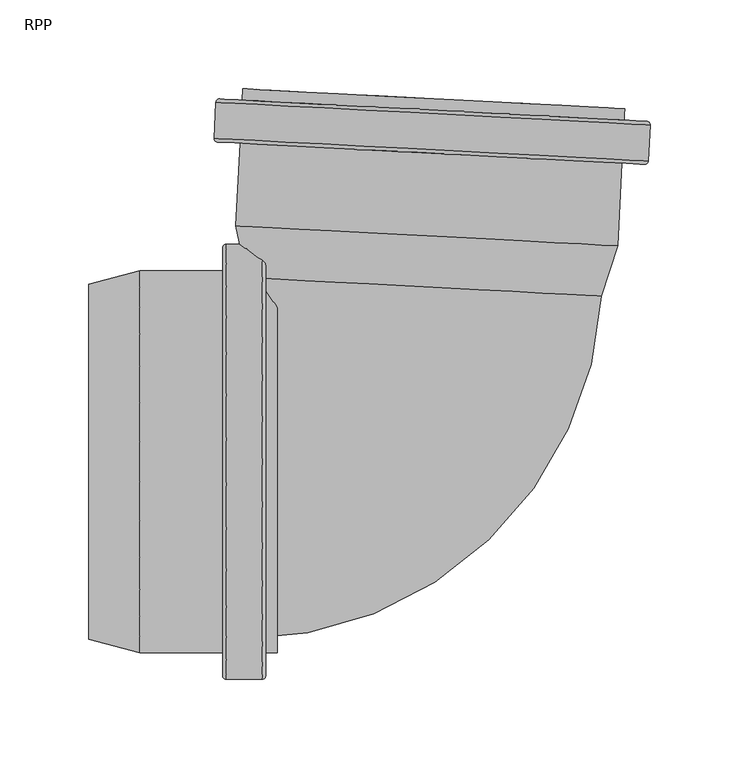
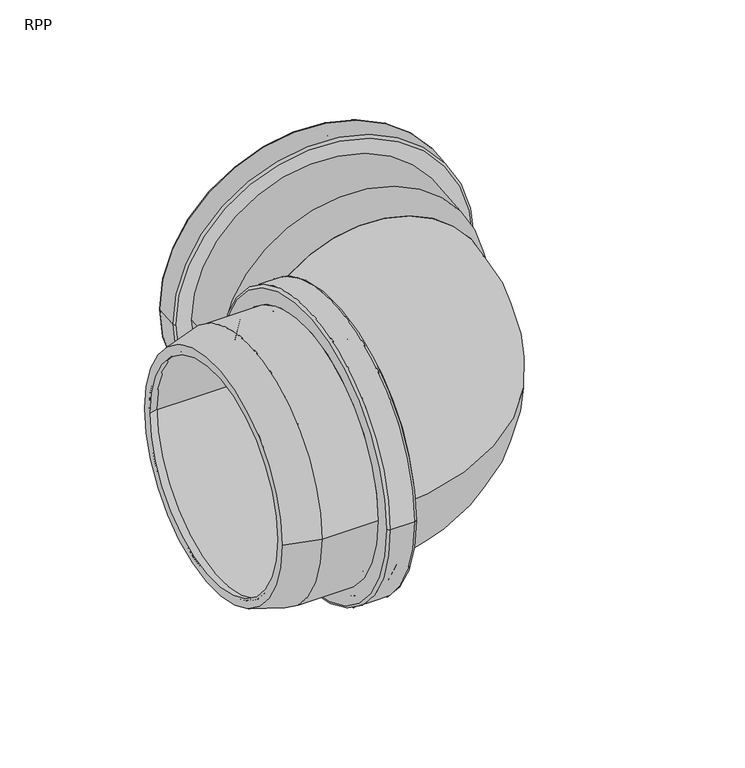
"""IFC4 building model written with IfcOpenShell, lengths in millimetres: pipe fitting geometry, RAUPIANO PLUS Bend : RPP."""

from ifc_helpers import new_model, si_unit, point, frame, origin, place, context, project, spatial, polyline, circle_curve, ellipse_curve, trimmed, source, transform, mapped, element, save
from ifc_brep_helpers import plane_surface, cylinder_surface, revolved_surface, advanced_brep


def rpp_9b603699(model_context):
    return source(origin(), model_context, "Body", "AdvancedBrep", [
        advanced_brep(
        [(-100.8923149, -100.3, 0.0), (-100.8923149, 100.3, 0.0), (-153.9812952, 100.3, 0.0), (-153.9812952, -100.3, 0.0), (-100.3923149, -115.1, 0.0), (-100.3923149, 115.1, 0.0), (-100.8923149, 114.6, 0.0), (-100.8923149, -114.6, 0.0), (-91.8923149, -115.1, 0.0), (-91.8923149, 115.1, 0.0), (-91.3923149, -114.6, 0.0), (-91.3923149, 114.6, 0.0), (-77.5923149, -100.3, 0.0), (-77.5923149, 100.3, 0.0), (-91.3923149, 100.3, 0.0), (-91.3923149, -100.3, 0.0), (-83.9923149, -107.7, 0.0), (-83.9923149, 107.7, 0.0), (-77.5923149, 107.7, 0.0), (-77.5923149, -107.7, 0.0), (-85.9923149, -122.5, 0.0), (-85.9923149, 122.5, 0.0), (-83.9923149, 120.5, 0.0), (-83.9923149, -120.5, 0.0), (-106.2923149, -122.5, 0.0), (-106.2923149, 122.5, 0.0), (-108.2923149, -120.5, 0.0), (-108.2923149, 120.5, 0.0), (-154.9555237, -107.7, 0.0), (-154.9555237, 107.7, 0.0), (-108.2923149, 107.7, 0.0), (-108.2923149, -107.7, 0.0), (-183.6923149, -100.0, 0.0), (-183.6923149, 100.0, 0.0), (-183.6923149, 92.3389563, 0.0), (-183.6923149, -92.3389563, 0.0)],
        [
            (0, 1, circle_curve(frame((-100.8923149, 0.0, 0.0), z_axis=(1.0, 0.0, 0.0), x_axis=(0.0, 1.0, 0.0)), 100.3)),
            (1, 2),
            (2, 3, circle_curve(frame((-153.9812952, 0.0, 0.0), z_axis=(-1.0, 0.0, 0.0), x_axis=(0.0, 1.0, 0.0)), 100.3)),
            (3, 0),
            (4, 5, circle_curve(frame((-100.3923149, 0.0, 0.0), z_axis=(1.0, 0.0, 0.0), x_axis=(0.0, 1.0, 0.0)), 115.1)),
            (5, 6, circle_curve(frame((-100.3923149, 114.6, 0.0), z_axis=(0.0, 0.0, 1.0), x_axis=(0.0, -1.0, 0.0)), 0.5)),
            (6, 7, circle_curve(frame((-100.8923149, 0.0, 0.0), z_axis=(-1.0, 0.0, 0.0), x_axis=(0.0, 1.0, 0.0)), 114.6)),
            (7, 4, circle_curve(frame((-100.3923149, -114.6, 0.0), z_axis=(0.0, 0.0, 1.0), x_axis=(0.0, 1.0, 0.0)), 0.5)),
            (8, 9, circle_curve(frame((-91.8923149, 0.0, 0.0), z_axis=(1.0, 0.0, 0.0), x_axis=(0.0, 1.0, 0.0)), 115.1)),
            (9, 5),
            (4, 8),
            (10, 11, circle_curve(frame((-91.3923149, 0.0, 0.0), z_axis=(1.0, 0.0, 0.0), x_axis=(0.0, 1.0, 0.0)), 114.6)),
            (11, 9, circle_curve(frame((-91.8923149, 114.6, 0.0), z_axis=(0.0, 0.0, 1.0), x_axis=(0.0, -1.0, 0.0)), 0.5)),
            (8, 10, circle_curve(frame((-91.8923149, -114.6, 0.0), z_axis=(0.0, 0.0, 1.0), x_axis=(0.0, 1.0, 0.0)), 0.5)),
            (12, 13, circle_curve(frame((-77.5923149, 0.0, 0.0), z_axis=(1.0, 0.0, 0.0), x_axis=(0.0, 1.0, 0.0)), 100.3)),
            (13, 14),
            (14, 15, circle_curve(frame((-91.3923149, 0.0, 0.0), z_axis=(-1.0, 0.0, 0.0), x_axis=(0.0, 1.0, 0.0)), 100.3)),
            (15, 12),
            (16, 17, circle_curve(frame((-83.9923149, 0.0, 0.0), z_axis=(1.0, 0.0, 0.0), x_axis=(0.0, 1.0, 0.0)), 107.7)),
            (17, 18),
            (18, 19, circle_curve(frame((-77.5923149, 0.0, 0.0), z_axis=(-1.0, 0.0, 0.0), x_axis=(0.0, 1.0, 0.0)), 107.7)),
            (19, 16),
            (20, 21, circle_curve(frame((-85.9923149, 0.0, 0.0), z_axis=(1.0, 0.0, 0.0), x_axis=(0.0, 1.0, 0.0)), 122.5)),
            (21, 22, circle_curve(frame((-85.9923149, 120.5, 0.0), z_axis=(0.0, 0.0, -1.0), x_axis=(0.0, -1.0, 0.0)), 2.0)),
            (22, 23, circle_curve(frame((-83.9923149, 0.0, 0.0), z_axis=(-1.0, 0.0, 0.0), x_axis=(0.0, 1.0, 0.0)), 120.5)),
            (23, 20, circle_curve(frame((-85.9923149, -120.5, 0.0), z_axis=(0.0, 0.0, -1.0), x_axis=(0.0, 1.0, 0.0)), 2.0)),
            (24, 25, circle_curve(frame((-106.2923149, 0.0, 0.0), z_axis=(1.0, 0.0, 0.0), x_axis=(0.0, 1.0, 0.0)), 122.5)),
            (25, 21),
            (20, 24),
            (26, 27, circle_curve(frame((-108.2923149, 0.0, 0.0), z_axis=(1.0, 0.0, 0.0), x_axis=(0.0, 1.0, 0.0)), 120.5)),
            (27, 25, circle_curve(frame((-106.2923149, 120.5, 0.0), z_axis=(0.0, 0.0, -1.0), x_axis=(0.0, -1.0, 0.0)), 2.0)),
            (24, 26, circle_curve(frame((-106.2923149, -120.5, 0.0), z_axis=(0.0, 0.0, -1.0), x_axis=(0.0, 1.0, 0.0)), 2.0)),
            (28, 29, circle_curve(frame((-154.9555237, 0.0, 0.0), z_axis=(1.0, 0.0, 0.0), x_axis=(0.0, 1.0, 0.0)), 107.7)),
            (29, 30),
            (30, 31, circle_curve(frame((-108.2923149, 0.0, 0.0), z_axis=(-1.0, 0.0, 0.0), x_axis=(0.0, 1.0, 0.0)), 107.7)),
            (31, 28),
            (32, 33, circle_curve(frame((-183.6923149, 0.0, 0.0), z_axis=(1.0, 0.0, 0.0), x_axis=(0.0, 1.0, 0.0)), 100.0)),
            (33, 29),
            (28, 32),
            (2, 34),
            (34, 35, circle_curve(frame((-183.6923149, 0.0, 0.0), z_axis=(-1.0, 0.0, 0.0), x_axis=(0.0, 1.0, 0.0)), 92.3389563)),
            (35, 3),
            (1, 0, circle_curve(frame((-100.8923149, 0.0, 0.0), z_axis=(1.0, 0.0, 0.0), x_axis=(0.0, -1.0, 0.0)), 100.3)),
            (3, 2, circle_curve(frame((-153.9812952, 0.0, 0.0), z_axis=(-1.0, 0.0, 0.0), x_axis=(0.0, -1.0, 0.0)), 100.3)),
            (6, 7, circle_curve(frame((-100.8923149, 0.0, 0.0), z_axis=(1.0, 0.0, 0.0), x_axis=(0.0, -1.0, 0.0)), 114.6)),
            (5, 4, circle_curve(frame((-100.3923149, 0.0, 0.0), z_axis=(1.0, 0.0, 0.0), x_axis=(0.0, -1.0, 0.0)), 115.1)),
            (9, 8, circle_curve(frame((-91.8923149, 0.0, 0.0), z_axis=(1.0, 0.0, 0.0), x_axis=(0.0, -1.0, 0.0)), 115.1)),
            (11, 10, circle_curve(frame((-91.3923149, 0.0, 0.0), z_axis=(1.0, 0.0, 0.0), x_axis=(0.0, -1.0, 0.0)), 114.6)),
            (14, 15, circle_curve(frame((-91.3923149, 0.0, 0.0), z_axis=(1.0, 0.0, 0.0), x_axis=(0.0, -1.0, 0.0)), 100.3)),
            (13, 12, circle_curve(frame((-77.5923149, 0.0, 0.0), z_axis=(1.0, 0.0, 0.0), x_axis=(0.0, -1.0, 0.0)), 100.3)),
            (18, 19, circle_curve(frame((-77.5923149, 0.0, 0.0), z_axis=(1.0, 0.0, 0.0), x_axis=(0.0, -1.0, 0.0)), 107.7)),
            (17, 16, circle_curve(frame((-83.9923149, 0.0, 0.0), z_axis=(1.0, 0.0, 0.0), x_axis=(0.0, -1.0, 0.0)), 107.7)),
            (22, 23, circle_curve(frame((-83.9923149, 0.0, 0.0), z_axis=(1.0, 0.0, 0.0), x_axis=(0.0, -1.0, 0.0)), 120.5)),
            (21, 20, circle_curve(frame((-85.9923149, 0.0, 0.0), z_axis=(1.0, 0.0, 0.0), x_axis=(0.0, -1.0, 0.0)), 122.5)),
            (25, 24, circle_curve(frame((-106.2923149, 0.0, 0.0), z_axis=(1.0, 0.0, 0.0), x_axis=(0.0, -1.0, 0.0)), 122.5)),
            (27, 26, circle_curve(frame((-108.2923149, 0.0, 0.0), z_axis=(1.0, 0.0, 0.0), x_axis=(0.0, -1.0, 0.0)), 120.5)),
            (30, 31, circle_curve(frame((-108.2923149, 0.0, 0.0), z_axis=(1.0, 0.0, 0.0), x_axis=(0.0, -1.0, 0.0)), 107.7)),
            (29, 28, circle_curve(frame((-154.9555237, 0.0, 0.0), z_axis=(1.0, 0.0, 0.0), x_axis=(0.0, -1.0, 0.0)), 107.7)),
            (33, 32, circle_curve(frame((-183.6923149, 0.0, 0.0), z_axis=(1.0, 0.0, 0.0), x_axis=(0.0, -1.0, 0.0)), 100.0)),
            (34, 35, circle_curve(frame((-183.6923149, 0.0, 0.0), z_axis=(1.0, 0.0, 0.0), x_axis=(0.0, -1.0, 0.0)), 92.3389563)),
        ],
        [
            revolved_surface(polyline([(-153.9812952, 100.3, 0.0), (-100.8923149, 100.3, 0.0)]), (-183.6923149, 0.0, 0.0), (-1.0, 0.0, 0.0)),
            revolved_surface(trimmed(ellipse_curve(frame((-100.3923149, 114.6, 0.0), z_axis=(0.0, 0.0, -1.0), x_axis=(0.0, -1.0, 0.0)), 0.5, 0.5), [point((-100.8923149, 114.6, 0.0))], [point((-100.3923149, 115.1, 0.0))], True, "CARTESIAN"), (-183.6923149, 0.0, 0.0), (-1.0, 0.0, 0.0)),
            revolved_surface(polyline([(-100.3923149, 115.1, 0.0), (-91.8923149, 115.1, 0.0)]), (-183.6923149, 0.0, 0.0), (-1.0, 0.0, 0.0)),
            revolved_surface(trimmed(ellipse_curve(frame((-91.8923149, 114.6, 0.0), z_axis=(0.0, 0.0, -1.0), x_axis=(0.0, -1.0, 0.0)), 0.5, 0.5), [point((-91.8923149, 115.1, 0.0))], [point((-91.3923149, 114.6, 0.0))], True, "CARTESIAN"), (-183.6923149, 0.0, 0.0), (-1.0, 0.0, 0.0)),
            revolved_surface(polyline([(-91.3923149, 100.3, 0.0), (-77.5923149, 100.3, 0.0)]), (-183.6923149, 0.0, 0.0), (-1.0, 0.0, 0.0)),
            cylinder_surface(frame((-183.6923149, 0.0, 0.0), z_axis=(-1.0, 0.0, 0.0), x_axis=(0.0, 1.0, 0.0)), 107.7),
            revolved_surface(trimmed(ellipse_curve(frame((-85.9923149, 120.5, 0.0), z_axis=(0.0, 0.0, 1.0), x_axis=(0.0, -1.0, 0.0)), 2.0, 2.0), [point((-83.9923149, 120.5, 0.0))], [point((-85.9923149, 122.5, 0.0))], True, "CARTESIAN"), (-183.6923149, 0.0, 0.0), (-1.0, 0.0, 0.0)),
            cylinder_surface(frame((-183.6923149, 0.0, 0.0), z_axis=(-1.0, 0.0, 0.0), x_axis=(0.0, 1.0, 0.0)), 122.5),
            revolved_surface(trimmed(ellipse_curve(frame((-106.2923149, 120.5, 0.0), z_axis=(0.0, 0.0, 1.0), x_axis=(0.0, -1.0, 0.0)), 2.0, 2.0), [point((-106.2923149, 122.5, 0.0))], [point((-108.2923149, 120.5, 0.0))], True, "CARTESIAN"), (-183.6923149, 0.0, 0.0), (-1.0, 0.0, 0.0)),
            revolved_surface(polyline([(-154.9555237, 107.7, 0.0), (-183.6923149, 100.0, 0.0)]), (-183.6923149, 0.0, 0.0), (-1.0, 0.0, 0.0)),
            revolved_surface(polyline([(-183.6923149, 92.3389563, 0.0), (-153.9812952, 100.3, 0.0)]), (-183.6923149, 0.0, 0.0), (-1.0, 0.0, 0.0)),
            revolved_surface(polyline([(-153.9812952, -100.3, 0.0), (-100.8923149, -100.3, 0.0)]), (-183.6923149, 0.0, 0.0), (-1.0, 0.0, 0.0)),
            plane_surface(frame((-100.8923149, 0.0, 0.0), z_axis=(1.0, 0.0, 0.0), x_axis=(0.0, -1.0, 0.0))),
            revolved_surface(trimmed(ellipse_curve(frame((-100.3923149, -114.6, 0.0), z_axis=(0.0, 0.0, 1.0), x_axis=(0.0, 1.0, 0.0)), 0.5, 0.5), [point((-100.8923149, -114.6, 0.0))], [point((-100.3923149, -115.1, 0.0))], True, "CARTESIAN"), (-183.6923149, 0.0, 0.0), (-1.0, 0.0, 0.0)),
            revolved_surface(polyline([(-100.3923149, -115.1, 0.0), (-91.8923149, -115.1, 0.0)]), (-183.6923149, 0.0, 0.0), (-1.0, 0.0, 0.0)),
            revolved_surface(trimmed(ellipse_curve(frame((-91.8923149, -114.6, 0.0), z_axis=(0.0, 0.0, 1.0), x_axis=(0.0, 1.0, 0.0)), 0.5, 0.5), [point((-91.8923149, -115.1, 0.0))], [point((-91.3923149, -114.6, 0.0))], True, "CARTESIAN"), (-183.6923149, 0.0, 0.0), (-1.0, 0.0, 0.0)),
            plane_surface(frame((-91.3923149, 0.0, 0.0), z_axis=(-1.0, 0.0, 0.0), x_axis=(0.0, -1.0, 0.0))),
            revolved_surface(polyline([(-91.3923149, -100.3, 0.0), (-77.5923149, -100.3, 0.0)]), (-183.6923149, 0.0, 0.0), (-1.0, 0.0, 0.0)),
            plane_surface(frame((-77.5923149, 0.0, 0.0), z_axis=(1.0, 0.0, 0.0), x_axis=(0.0, -1.0, 0.0))),
            cylinder_surface(frame((-183.6923149, 0.0, 0.0), z_axis=(-1.0, 0.0, 0.0), x_axis=(0.0, -1.0, 0.0)), 107.7),
            plane_surface(frame((-83.9923149, 0.0, 0.0), z_axis=(1.0, 0.0, 0.0), x_axis=(0.0, -1.0, 0.0))),
            revolved_surface(trimmed(ellipse_curve(frame((-85.9923149, -120.5, 0.0), z_axis=(0.0, 0.0, -1.0), x_axis=(0.0, 1.0, 0.0)), 2.0, 2.0), [point((-83.9923149, -120.5, 0.0))], [point((-85.9923149, -122.5, 0.0))], True, "CARTESIAN"), (-183.6923149, 0.0, 0.0), (-1.0, 0.0, 0.0)),
            cylinder_surface(frame((-183.6923149, 0.0, 0.0), z_axis=(-1.0, 0.0, 0.0), x_axis=(0.0, -1.0, 0.0)), 122.5),
            revolved_surface(trimmed(ellipse_curve(frame((-106.2923149, -120.5, 0.0), z_axis=(0.0, 0.0, -1.0), x_axis=(0.0, 1.0, 0.0)), 2.0, 2.0), [point((-106.2923149, -122.5, 0.0))], [point((-108.2923149, -120.5, 0.0))], True, "CARTESIAN"), (-183.6923149, 0.0, 0.0), (-1.0, 0.0, 0.0)),
            plane_surface(frame((-108.2923149, 0.0, 0.0), z_axis=(-1.0, 0.0, 0.0), x_axis=(0.0, -1.0, 0.0))),
            revolved_surface(polyline([(-154.9555237, -107.7, 0.0), (-183.6923149, -100.0, 0.0)]), (-183.6923149, 0.0, 0.0), (-1.0, 0.0, 0.0)),
            plane_surface(frame((-183.6923149, 0.0, 0.0), z_axis=(-1.0, 0.0, 0.0), x_axis=(0.0, -1.0, 0.0))),
            revolved_surface(polyline([(-183.6923149, -92.3389563, 0.0), (-153.9812952, -100.3, 0.0)]), (-183.6923149, 0.0, 0.0), (-1.0, 0.0, 0.0)),
        ],
        [
            (0, [[1, 2, 3, 4]]),
            (1, [[5, 6, 7, 8]]),
            (2, [[9, 10, -5, 11]]),
            (3, [[12, 13, -9, 14]]),
            (4, [[15, 16, 17, 18]]),
            (5, [[19, 20, 21, 22]]),
            (6, [[23, 24, 25, 26]]),
            (7, [[27, 28, -23, 29]]),
            (8, [[30, 31, -27, 32]]),
            (5, [[33, 34, 35, 36]]),
            (9, [[37, 38, -33, 39]]),
            (10, [[-3, 40, 41, 42]]),
            (11, [[43, -4, 44, -2]]),
            (12, [[45, -7], [-43, -1]]),
            (13, [[46, -8, -45, -6]]),
            (14, [[47, -11, -46, -10]]),
            (15, [[48, -14, -47, -13]]),
            (16, [[-48, -12], [49, -17]]),
            (17, [[50, -18, -49, -16]]),
            (18, [[51, -21], [-50, -15]]),
            (19, [[52, -22, -51, -20]]),
            (20, [[53, -25], [-52, -19]]),
            (21, [[54, -26, -53, -24]]),
            (22, [[55, -29, -54, -28]]),
            (23, [[56, -32, -55, -31]]),
            (24, [[-56, -30], [57, -35]]),
            (19, [[58, -36, -57, -34]]),
            (25, [[59, -39, -58, -38]]),
            (26, [[-59, -37], [60, -41]]),
            (27, [[-44, -42, -60, -40]]),
        ],
    ),
        advanced_brep(
        [(97.3775656, 93.724413, 0.0), (-87.0472523, 103.3897081, 0.0), (-93.442431, 133.4766587, 0.0), (106.8826536, 122.9780659, 0.0), (114.221525, 121.6178865, 0.0), (-100.8832768, 132.8910515, 0.0), (-94.6977968, 103.7906562, 0.0), (105.0281102, 93.3234649, 0.0), (116.6636887, 168.217145, 0.0), (-98.4411131, 179.49031, 0.0), (132.6104976, 189.7120115, 0.0), (-112.0537384, 202.5343207, 0.0), (-113.1161583, 182.2621412, 0.0), (131.5480777, 169.4398319, 0.0), (118.2704025, 198.8750717, 0.0), (-96.8343993, 210.1482367, 0.0), (-97.1693494, 203.7570077, 0.0), (117.9354524, 192.4838427, 0.0), (110.1583078, 185.4812702, 0.0), (-90.1667769, 195.979863, 0.0), (-89.4445407, 209.7609506, 0.0), (110.880544, 199.2623578, 0.0), (124.4670013, 175.7190322, 0.0), (-105.4175176, 187.7667694, 0.0), (-104.972662, 196.2551204, 0.0), (124.9118569, 184.2073833, 0.0), (-90.6639685, 186.4928824, 0.0), (109.6611162, 175.9942896, 0.0), (-111.2235712, 180.1602102, 0.0), (129.4461467, 167.5472447, 0.0), (130.7179105, 191.8139424, 0.0), (-109.9518074, 204.4269079, 0.0), (-104.4471792, 196.7282672, 0.0), (124.4387101, 184.732866, 0.0), (123.9415185, 175.2458854, 0.0), (-104.9443708, 187.2412866, 0.0)],
        [
            (0, 1, circle_curve(frame((5.1651567, 98.5570606, 0.0), z_axis=(-0.05233595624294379, -0.9986295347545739, 0.0), x_axis=(-0.9986295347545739, 0.05233595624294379, 0.0)), 92.3389563)),
            (1, 2),
            (2, 3, circle_curve(frame((6.7201113, 128.2273623, 0.0), z_axis=(0.05233595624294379, 0.9986295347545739, 0.0), x_axis=(-0.9986295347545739, 0.05233595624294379, 0.0)), 100.3)),
            (3, 0),
            (4, 5, circle_curve(frame((6.6691241, 127.254469, 0.0), z_axis=(-0.05233595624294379, -0.9986295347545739, 0.0), x_axis=(-0.9986295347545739, 0.05233595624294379, 0.0)), 107.7)),
            (5, 6),
            (6, 7, circle_curve(frame((5.1651567, 98.5570606, 0.0), z_axis=(0.05233595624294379, 0.9986295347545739, 0.0), x_axis=(-0.9986295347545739, 0.05233595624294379, 0.0)), 100.0)),
            (7, 4),
            (8, 9, circle_curve(frame((9.1112878, 173.8537275, 0.0), z_axis=(-0.05233595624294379, -0.9986295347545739, 0.0), x_axis=(-0.9986295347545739, 0.05233595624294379, 0.0)), 107.7)),
            (9, 5),
            (4, 8),
            (10, 11, circle_curve(frame((10.2783796, 196.1231661, 0.0), z_axis=(-0.05233595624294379, -0.9986295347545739, 0.0), x_axis=(-0.9986295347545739, 0.05233595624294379, 0.0)), 122.5)),
            (11, 12),
            (12, 13, circle_curve(frame((9.2159597, 175.8509865, 0.0), z_axis=(0.05233595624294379, 0.9986295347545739, 0.0), x_axis=(-0.9986295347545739, 0.05233595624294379, 0.0)), 122.5)),
            (13, 10),
            (14, 15, circle_curve(frame((10.7180016, 204.5116542, 0.0), z_axis=(-0.05233595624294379, -0.9986295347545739, 0.0), x_axis=(-0.9986295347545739, 0.05233595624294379, 0.0)), 107.7)),
            (15, 16),
            (16, 17, circle_curve(frame((10.3830515, 198.1204252, 0.0), z_axis=(0.05233595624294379, 0.9986295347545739, 0.0), x_axis=(-0.9986295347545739, 0.05233595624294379, 0.0)), 107.7)),
            (17, 14),
            (18, 19, circle_curve(frame((9.9957654, 190.7305666, 0.0), z_axis=(-0.05233595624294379, -0.9986295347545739, 0.0), x_axis=(-0.9986295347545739, 0.05233595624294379, 0.0)), 100.3)),
            (19, 20),
            (20, 21, circle_curve(frame((10.7180016, 204.5116542, 0.0), z_axis=(0.05233595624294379, 0.9986295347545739, 0.0), x_axis=(-0.9986295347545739, 0.05233595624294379, 0.0)), 100.3)),
            (21, 18),
            (22, 23, circle_curve(frame((9.5247418, 181.7429008, 0.0), z_axis=(-0.05233595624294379, -0.9986295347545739, 0.0), x_axis=(-0.9986295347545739, 0.05233595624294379, 0.0)), 115.1)),
            (23, 24),
            (24, 25, circle_curve(frame((9.9695975, 190.2312518, 0.0), z_axis=(0.05233595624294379, 0.9986295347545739, 0.0), x_axis=(-0.9986295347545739, 0.05233595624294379, 0.0)), 115.1)),
            (25, 22),
            (2, 26),
            (26, 27, circle_curve(frame((9.4985739, 181.243586, 0.0), z_axis=(0.05233595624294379, 0.9986295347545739, 0.0), x_axis=(-0.9986295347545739, 0.05233595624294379, 0.0)), 100.3)),
            (27, 3),
            (1, 0, circle_curve(frame((5.1651567, 98.5570606, 0.0), z_axis=(-0.05233595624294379, -0.9986295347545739, 0.0), x_axis=(0.9986295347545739, -0.05233595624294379, 0.0)), 92.3389563)),
            (3, 2, circle_curve(frame((6.7201113, 128.2273623, 0.0), z_axis=(0.05233595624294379, 0.9986295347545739, 0.0), x_axis=(0.9986295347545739, -0.05233595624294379, 0.0)), 100.3)),
            (6, 7, circle_curve(frame((5.1651567, 98.5570606, 0.0), z_axis=(-0.05233595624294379, -0.9986295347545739, 0.0), x_axis=(0.9986295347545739, -0.05233595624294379, 0.0)), 100.0)),
            (5, 4, circle_curve(frame((6.6691241, 127.254469, 0.0), z_axis=(-0.05233595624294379, -0.9986295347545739, 0.0), x_axis=(0.9986295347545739, -0.05233595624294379, 0.0)), 107.7)),
            (9, 8, circle_curve(frame((9.1112878, 173.8537275, 0.0), z_axis=(-0.05233595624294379, -0.9986295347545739, 0.0), x_axis=(0.9986295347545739, -0.05233595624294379, 0.0)), 107.7)),
            (28, 29, circle_curve(frame((9.1112878, 173.8537275, 0.0), z_axis=(-0.05233595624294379, -0.9986295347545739, 0.0), x_axis=(0.9986295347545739, -0.05233595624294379, 0.0)), 120.5)),
            (29, 28, circle_curve(frame((9.1112878, 173.8537275, 0.0), z_axis=(-0.05233595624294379, -0.9986295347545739, 0.0), x_axis=(-0.9986295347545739, 0.05233595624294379, 0.0)), 120.5)),
            (11, 10, circle_curve(frame((10.2783796, 196.1231661, 0.0), z_axis=(-0.05233595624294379, -0.9986295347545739, 0.0), x_axis=(0.9986295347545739, -0.05233595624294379, 0.0)), 122.5)),
            (13, 12, circle_curve(frame((9.2159597, 175.8509865, 0.0), z_axis=(0.05233595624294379, 0.9986295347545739, 0.0), x_axis=(0.9986295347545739, -0.05233595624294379, 0.0)), 122.5)),
            (30, 31, circle_curve(frame((10.3830515, 198.1204252, 0.0), z_axis=(0.05233595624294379, 0.9986295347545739, 0.0), x_axis=(0.9986295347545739, -0.05233595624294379, 0.0)), 120.5)),
            (31, 30, circle_curve(frame((10.3830515, 198.1204252, 0.0), z_axis=(0.05233595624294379, 0.9986295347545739, 0.0), x_axis=(-0.9986295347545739, 0.05233595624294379, 0.0)), 120.5)),
            (16, 17, circle_curve(frame((10.3830515, 198.1204252, 0.0), z_axis=(-0.05233595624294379, -0.9986295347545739, 0.0), x_axis=(0.9986295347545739, -0.05233595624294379, 0.0)), 107.7)),
            (15, 14, circle_curve(frame((10.7180016, 204.5116542, 0.0), z_axis=(-0.05233595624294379, -0.9986295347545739, 0.0), x_axis=(0.9986295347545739, -0.05233595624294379, 0.0)), 107.7)),
            (20, 21, circle_curve(frame((10.7180016, 204.5116542, 0.0), z_axis=(-0.05233595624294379, -0.9986295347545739, 0.0), x_axis=(0.9986295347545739, -0.05233595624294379, 0.0)), 100.3)),
            (19, 18, circle_curve(frame((9.9957654, 190.7305666, 0.0), z_axis=(-0.05233595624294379, -0.9986295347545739, 0.0), x_axis=(0.9986295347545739, -0.05233595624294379, 0.0)), 100.3)),
            (32, 33, circle_curve(frame((9.9957654, 190.7305666, 0.0), z_axis=(-0.05233595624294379, -0.9986295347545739, 0.0), x_axis=(0.9986295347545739, -0.05233595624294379, 0.0)), 114.6)),
            (33, 32, circle_curve(frame((9.9957654, 190.7305666, 0.0), z_axis=(-0.05233595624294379, -0.9986295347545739, 0.0), x_axis=(-0.9986295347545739, 0.05233595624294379, 0.0)), 114.6)),
            (23, 22, circle_curve(frame((9.5247418, 181.7429008, 0.0), z_axis=(-0.05233595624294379, -0.9986295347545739, 0.0), x_axis=(0.9986295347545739, -0.05233595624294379, 0.0)), 115.1)),
            (25, 24, circle_curve(frame((9.9695975, 190.2312518, 0.0), z_axis=(0.05233595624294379, 0.9986295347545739, 0.0), x_axis=(0.9986295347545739, -0.05233595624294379, 0.0)), 115.1)),
            (34, 35, circle_curve(frame((9.4985739, 181.243586, 0.0), z_axis=(0.05233595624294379, 0.9986295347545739, 0.0), x_axis=(0.9986295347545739, -0.05233595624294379, 0.0)), 114.6)),
            (35, 34, circle_curve(frame((9.4985739, 181.243586, 0.0), z_axis=(0.05233595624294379, 0.9986295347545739, 0.0), x_axis=(-0.9986295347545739, 0.05233595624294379, 0.0)), 114.6)),
            (26, 27, circle_curve(frame((9.4985739, 181.243586, 0.0), z_axis=(-0.05233595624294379, -0.9986295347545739, 0.0), x_axis=(0.9986295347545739, -0.05233595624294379, 0.0)), 100.3)),
            (12, 28, circle_curve(frame((-111.1188992, 182.1574693, 0.0), z_axis=(0.0, 0.0, 1.0), x_axis=(0.9986295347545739, -0.05233595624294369, 0.0)), 2.0)),
            (29, 13, circle_curve(frame((129.5508186, 169.5445038, 0.0), z_axis=(0.0, 0.0, 1.0), x_axis=(-0.9986295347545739, 0.0523359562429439, 0.0)), 2.0)),
            (31, 11, circle_curve(frame((-110.0564793, 202.4296488, 0.0), z_axis=(0.0, 0.0, 1.0), x_axis=(0.9986295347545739, -0.05233595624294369, 0.0)), 2.0)),
            (10, 30, circle_curve(frame((130.6132385, 189.8166834, 0.0), z_axis=(0.0, 0.0, 1.0), x_axis=(-0.9986295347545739, 0.0523359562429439, 0.0)), 2.0)),
            (24, 32, circle_curve(frame((-104.4733472, 196.2289524, 0.0), z_axis=(0.0, 0.0, -1.0), x_axis=(0.9986295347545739, -0.05233595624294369, 0.0)), 0.5)),
            (33, 25, circle_curve(frame((124.4125421, 184.2335513, 0.0), z_axis=(0.0, 0.0, -1.0), x_axis=(-0.9986295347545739, 0.0523359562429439, 0.0)), 0.5)),
            (35, 23, circle_curve(frame((-104.9182029, 187.7406014, 0.0), z_axis=(0.0, 0.0, -1.0), x_axis=(0.9986295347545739, -0.05233595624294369, 0.0)), 0.5)),
            (22, 34, circle_curve(frame((123.9676865, 175.7452002, 0.0), z_axis=(0.0, 0.0, -1.0), x_axis=(-0.9986295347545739, 0.0523359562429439, 0.0)), 0.5)),
        ],
        [
            revolved_surface(polyline([(-93.442431, 133.4766587, 0.0), (-87.0472523, 103.3897081, 0.0)]), (5.1651567, 98.5570606, 0.0), (0.05233595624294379, 0.9986295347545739, 0.0)),
            revolved_surface(polyline([(-94.6977968, 103.7906562, 0.0), (-100.8832768, 132.8910515, 0.0)]), (5.1651567, 98.5570606, 0.0), (0.05233595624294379, 0.9986295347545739, 0.0)),
            cylinder_surface(frame((5.1651567, 98.5570606, 0.0), z_axis=(0.05233595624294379, 0.9986295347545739, 0.0), x_axis=(-0.9986295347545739, 0.05233595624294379, 0.0)), 107.7),
            cylinder_surface(frame((5.1651567, 98.5570606, 0.0), z_axis=(0.05233595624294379, 0.9986295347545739, 0.0), x_axis=(-0.9986295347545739, 0.05233595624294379, 0.0)), 122.5),
            revolved_surface(polyline([(-89.44454067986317, 209.7609506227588, 0.0), (-90.16677687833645, 195.9798629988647, 0.0)]), (5.1651567, 98.5570606, 0.0), (0.05233595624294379, 0.9986295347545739, 0.0)),
            revolved_surface(polyline([(-104.97266196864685, 196.25512042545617, 0.0), (-105.41751759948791, 187.76676932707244, 0.0)]), (5.1651567, 98.5570606, 0.0), (0.05233595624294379, 0.9986295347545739, 0.0)),
            revolved_surface(polyline([(-90.66396846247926, 186.49288242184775, 0.0), (-93.44243101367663, 133.47665870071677, 0.0)]), (5.1651567, 98.5570606, 0.0), (0.05233595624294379, 0.9986295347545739, 0.0)),
            revolved_surface(polyline([(106.8826536, 122.9780659, 0.0), (97.3775656, 93.724413, 0.0)]), (5.1651567, 98.5570606, 0.0), (0.05233595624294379, 0.9986295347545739, 0.0)),
            plane_surface(frame((5.1651567, 98.5570606, 0.0), z_axis=(-0.05233595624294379, -0.9986295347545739, 0.0), x_axis=(0.9986295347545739, -0.05233595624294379, 0.0))),
            revolved_surface(polyline([(105.0281102, 93.3234649, 0.0), (114.221525, 121.6178865, 0.0)]), (5.1651567, 98.5570606, 0.0), (0.05233595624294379, 0.9986295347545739, 0.0)),
            cylinder_surface(frame((5.1651567, 98.5570606, 0.0), z_axis=(0.05233595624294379, 0.9986295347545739, 0.0), x_axis=(0.9986295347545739, -0.05233595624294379, 0.0)), 107.7),
            plane_surface(frame((9.1112878, 173.8537275, 0.0), z_axis=(-0.05233595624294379, -0.9986295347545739, 0.0), x_axis=(0.9986295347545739, -0.05233595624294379, 0.0))),
            cylinder_surface(frame((5.1651567, 98.5570606, 0.0), z_axis=(0.05233595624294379, 0.9986295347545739, 0.0), x_axis=(0.9986295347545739, -0.05233595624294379, 0.0)), 122.5),
            plane_surface(frame((10.3830515, 198.1204252, 0.0), z_axis=(0.05233595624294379, 0.9986295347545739, 0.0), x_axis=(0.9986295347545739, -0.05233595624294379, 0.0))),
            plane_surface(frame((10.7180016, 204.5116542, 0.0), z_axis=(0.05233595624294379, 0.9986295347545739, 0.0), x_axis=(0.9986295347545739, -0.05233595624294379, 0.0))),
            revolved_surface(polyline([(110.88054399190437, 199.26235780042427, 0.0), (110.15830779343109, 185.48127017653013, 0.0)]), (5.1651567, 98.5570606, 0.0), (0.05233595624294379, 0.9986295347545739, 0.0)),
            plane_surface(frame((9.9957654, 190.7305666, 0.0), z_axis=(-0.05233595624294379, -0.9986295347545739, 0.0), x_axis=(0.9986295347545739, -0.05233595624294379, 0.0))),
            revolved_surface(polyline([(124.91185693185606, 184.2073832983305, 0.0), (124.467001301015, 175.7190321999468, 0.0)]), (5.1651567, 98.5570606, 0.0), (0.05233595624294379, 0.9986295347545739, 0.0)),
            plane_surface(frame((9.4985739, 181.243586, 0.0), z_axis=(0.05233595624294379, 0.9986295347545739, 0.0), x_axis=(0.9986295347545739, -0.05233595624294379, 0.0))),
            revolved_surface(polyline([(109.66111620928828, 175.99428959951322, 0.0), (106.88265365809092, 122.97806587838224, 0.0)]), (5.1651567, 98.5570606, 0.0), (0.05233595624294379, 0.9986295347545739, 0.0)),
            revolved_surface(trimmed(ellipse_curve(frame((-111.1188992, 182.1574693, 0.0), z_axis=(0.0, 0.0, -1.0), x_axis=(0.9986295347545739, -0.05233595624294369, 0.0)), 2.0, 2.0), [point((-111.2235712, 180.1602102, 0.0))], [point((-113.1161583, 182.2621412, 0.0))], True, "CARTESIAN"), (5.1651567, 98.5570606, 0.0), (0.05233595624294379, 0.9986295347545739, 0.0)),
            revolved_surface(trimmed(ellipse_curve(frame((-110.0564793, 202.4296488, 0.0), z_axis=(0.0, 0.0, -1.0), x_axis=(0.9986295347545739, -0.05233595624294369, 0.0)), 2.0, 2.0), [point((-112.0537384, 202.5343207, 0.0))], [point((-109.9518074, 204.4269079, 0.0))], True, "CARTESIAN"), (5.1651567, 98.5570606, 0.0), (0.05233595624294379, 0.9986295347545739, 0.0)),
            revolved_surface(trimmed(ellipse_curve(frame((-104.4733472, 196.2289524, 0.0), z_axis=(0.0, 0.0, 1.0), x_axis=(0.9986295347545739, -0.05233595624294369, 0.0)), 0.5, 0.5), [point((-104.4471792, 196.7282672, 0.0))], [point((-104.972662, 196.2551204, 0.0))], True, "CARTESIAN"), (5.1651567, 98.5570606, 0.0), (0.05233595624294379, 0.9986295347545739, 0.0)),
            revolved_surface(trimmed(ellipse_curve(frame((-104.9182029, 187.7406014, 0.0), z_axis=(0.0, 0.0, 1.0), x_axis=(0.9986295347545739, -0.05233595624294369, 0.0)), 0.5, 0.5), [point((-105.4175176, 187.7667694, 0.0))], [point((-104.9443708, 187.2412866, 0.0))], True, "CARTESIAN"), (5.1651567, 98.5570606, 0.0), (0.05233595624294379, 0.9986295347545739, 0.0)),
            revolved_surface(trimmed(ellipse_curve(frame((129.5508186, 169.5445038, 0.0), z_axis=(0.0, 0.0, 1.0), x_axis=(-0.9986295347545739, 0.052335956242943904, 0.0)), 2.0, 2.0), [point((129.4461467, 167.5472447, 0.0))], [point((131.5480777, 169.4398319, 0.0))], True, "CARTESIAN"), (5.1651567, 98.5570606, 0.0), (0.05233595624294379, 0.9986295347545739, 0.0)),
            revolved_surface(trimmed(ellipse_curve(frame((130.6132385, 189.8166834, 0.0), z_axis=(0.0, 0.0, 1.0), x_axis=(-0.9986295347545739, 0.052335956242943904, 0.0)), 2.0, 2.0), [point((132.6104976, 189.7120115, 0.0))], [point((130.7179105, 191.8139424, 0.0))], True, "CARTESIAN"), (5.1651567, 98.5570606, 0.0), (0.05233595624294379, 0.9986295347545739, 0.0)),
            revolved_surface(trimmed(ellipse_curve(frame((124.4125421, 184.2335513, 0.0), z_axis=(0.0, 0.0, -1.0), x_axis=(-0.9986295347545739, 0.052335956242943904, 0.0)), 0.5, 0.5), [point((124.4387101, 184.732866, 0.0))], [point((124.9118569, 184.2073833, 0.0))], True, "CARTESIAN"), (5.1651567, 98.5570606, 0.0), (0.05233595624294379, 0.9986295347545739, 0.0)),
            revolved_surface(trimmed(ellipse_curve(frame((123.9676865, 175.7452002, 0.0), z_axis=(0.0, 0.0, -1.0), x_axis=(-0.9986295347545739, 0.052335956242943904, 0.0)), 0.5, 0.5), [point((124.4670013, 175.7190322, 0.0))], [point((123.9415185, 175.2458854, 0.0))], True, "CARTESIAN"), (5.1651567, 98.5570606, 0.0), (0.05233595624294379, 0.9986295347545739, 0.0)),
        ],
        [
            (0, [[1, 2, 3, 4]]),
            (1, [[5, 6, 7, 8]]),
            (2, [[9, 10, -5, 11]]),
            (3, [[12, 13, 14, 15]]),
            (2, [[16, 17, 18, 19]]),
            (4, [[20, 21, 22, 23]]),
            (5, [[24, 25, 26, 27]]),
            (6, [[-3, 28, 29, 30]]),
            (7, [[31, -4, 32, -2]]),
            (8, [[33, -7], [-31, -1]]),
            (9, [[34, -8, -33, -6]]),
            (10, [[35, -11, -34, -10]]),
            (11, [[36, 37], [-35, -9]]),
            (12, [[38, -15, 39, -13]]),
            (13, [[40, 41], [42, -18]]),
            (10, [[43, -19, -42, -17]]),
            (14, [[-43, -16], [44, -22]]),
            (15, [[45, -23, -44, -21]]),
            (16, [[46, 47], [-45, -20]]),
            (17, [[48, -27, 49, -25]]),
            (18, [[50, 51], [52, -29]]),
            (19, [[-32, -30, -52, -28]]),
            (20, [[-14, 53, -37, 54]]),
            (21, [[-41, 55, -12, 56]]),
            (22, [[-26, 57, -47, 58]]),
            (23, [[-51, 59, -24, 60]]),
            (24, [[-39, -54, -36, -53]]),
            (25, [[-40, -56, -38, -55]]),
            (26, [[-49, -58, -46, -57]]),
            (27, [[-50, -60, -48, -59]]),
        ],
    ),
        advanced_brep(
        [(-98.6923149, 93.8, 0.0), (-98.6923149, -93.8, 0.0), (-183.6923149, -93.8, 0.0), (-183.6923149, 93.8, 0.0), (-163.5392406, 100.0, 0.0), (-163.5392406, -100.0, 0.0), (-98.6923149, -100.0, 0.0), (-98.6923149, 100.0, 0.0), (-183.6923149, 94.6, 0.0), (-183.6923149, -94.6, 0.0)],
        [
            (0, 1, circle_curve(frame((-98.6923149, 0.0, 0.0), z_axis=(1.0, 0.0, 0.0), x_axis=(0.0, -1.0, 0.0)), 93.8)),
            (1, 2),
            (2, 3, circle_curve(frame((-183.6923149, 0.0, 0.0), z_axis=(-1.0, 0.0, 0.0), x_axis=(0.0, -1.0, 0.0)), 93.8)),
            (3, 0),
            (4, 5, circle_curve(frame((-163.5392406, 0.0, 0.0), z_axis=(1.0, 0.0, 0.0), x_axis=(0.0, -1.0, 0.0)), 100.0)),
            (5, 6),
            (6, 7, circle_curve(frame((-98.6923149, 0.0, 0.0), z_axis=(-1.0, 0.0, 0.0), x_axis=(0.0, -1.0, 0.0)), 100.0)),
            (7, 4),
            (8, 9, circle_curve(frame((-183.6923149, 0.0, 0.0), z_axis=(1.0, 0.0, 0.0), x_axis=(0.0, -1.0, 0.0)), 94.6)),
            (9, 5),
            (4, 8),
            (1, 0, circle_curve(frame((-98.6923149, 0.0, 0.0), z_axis=(1.0, 0.0, 0.0), x_axis=(0.0, 1.0, 0.0)), 93.8)),
            (3, 2, circle_curve(frame((-183.6923149, 0.0, 0.0), z_axis=(-1.0, 0.0, 0.0), x_axis=(0.0, 1.0, 0.0)), 93.8)),
            (6, 7, circle_curve(frame((-98.6923149, 0.0, 0.0), z_axis=(1.0, 0.0, 0.0), x_axis=(0.0, 1.0, 0.0)), 100.0)),
            (5, 4, circle_curve(frame((-163.5392406, 0.0, 0.0), z_axis=(1.0, 0.0, 0.0), x_axis=(0.0, 1.0, 0.0)), 100.0)),
            (9, 8, circle_curve(frame((-183.6923149, 0.0, 0.0), z_axis=(1.0, 0.0, 0.0), x_axis=(0.0, 1.0, 0.0)), 94.6)),
        ],
        [
            revolved_surface(polyline([(-183.6923149, -93.8, 0.0), (-98.6923149, -93.8, 0.0)]), (-98.6923149, 0.0, 0.0), (-1.0, 0.0, 0.0)),
            cylinder_surface(frame((-98.6923149, 0.0, 0.0), z_axis=(-1.0, 0.0, 0.0), x_axis=(0.0, -1.0, 0.0)), 100.0),
            revolved_surface(polyline([(-163.5392406, -100.0, 0.0), (-183.6923149, -94.6, 0.0)]), (-98.6923149, 0.0, 0.0), (-1.0, 0.0, 0.0)),
            revolved_surface(polyline([(-183.6923149, 93.8, 0.0), (-98.6923149, 93.8, 0.0)]), (-98.6923149, 0.0, 0.0), (-1.0, 0.0, 0.0)),
            plane_surface(frame((-98.6923149, 0.0, 0.0), z_axis=(1.0, 0.0, 0.0), x_axis=(0.0, 1.0, 0.0))),
            cylinder_surface(frame((-98.6923149, 0.0, 0.0), z_axis=(-1.0, 0.0, 0.0), x_axis=(0.0, 1.0, 0.0)), 100.0),
            revolved_surface(polyline([(-163.5392406, 100.0, 0.0), (-183.6923149, 94.6, 0.0)]), (-98.6923149, 0.0, 0.0), (-1.0, 0.0, 0.0)),
            plane_surface(frame((-183.6923149, 0.0, 0.0), z_axis=(-1.0, 0.0, 0.0), x_axis=(0.0, 1.0, 0.0))),
        ],
        [
            (0, [[1, 2, 3, 4]]),
            (1, [[5, 6, 7, 8]]),
            (2, [[9, 10, -5, 11]]),
            (3, [[12, -4, 13, -2]]),
            (4, [[14, -7], [-12, -1]]),
            (5, [[15, -8, -14, -6]]),
            (6, [[16, -11, -15, -10]]),
            (7, [[-16, -9], [-13, -3]]),
        ],
    ),
        advanced_brep(
        [(-98.6923149, -100.0, 0.0), (-98.6923149, 100.0, 0.0), (-98.6923149, -93.8, 0.0), (-98.6923149, 93.8, 0.0), (105.0281102, 93.3234649, 0.0), (-94.6977968, 103.7906562, 0.0), (98.836607, 93.6479479, 0.0), (-88.5062937, 103.4661732, 0.0)],
        [
            (0, 1, circle_curve(frame((-98.6923149, 0.0, 0.0), z_axis=(-1.0, 0.0, 0.0), x_axis=(0.0, 1.0, 0.0)), 100.0)),
            (1, 0, circle_curve(frame((-98.6923149, 0.0, 0.0), z_axis=(-1.0, 0.0, 0.0), x_axis=(0.0, 1.0, 0.0)), 100.0)),
            (2, 3, circle_curve(frame((-98.6923149, 0.0, 0.0), z_axis=(1.0, 0.0, 0.0), x_axis=(0.0, 1.0, 0.0)), 93.8)),
            (3, 2, circle_curve(frame((-98.6923149, 0.0, 0.0), z_axis=(1.0, 0.0, 0.0), x_axis=(0.0, 1.0, 0.0)), 93.8)),
            (4, 5, circle_curve(frame((5.1651567, 98.5570606, 0.0), z_axis=(0.05233595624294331, 0.9986295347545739, 0.0), x_axis=(-0.9986295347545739, 0.05233595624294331, 0.0)), 100.0)),
            (5, 4, circle_curve(frame((5.1651567, 98.5570606, 0.0), z_axis=(0.05233595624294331, 0.9986295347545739, 0.0), x_axis=(-0.9986295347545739, 0.05233595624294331, 0.0)), 100.0)),
            (6, 7, circle_curve(frame((5.1651567, 98.5570606, 0.0), z_axis=(-0.05233595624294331, -0.9986295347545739, 0.0), x_axis=(-0.9986295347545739, 0.05233595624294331, 0.0)), 93.8)),
            (7, 6, circle_curve(frame((5.1651567, 98.5570606, 0.0), z_axis=(-0.05233595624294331, -0.9986295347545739, 0.0), x_axis=(-0.9986295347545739, 0.05233595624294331, 0.0)), 93.8)),
            (7, 3, circle_curve(frame((-98.6923149, 104.0, 0.0), z_axis=(0.0, 0.0, -1.0), x_axis=(0.0, -1.0, 0.0)), 10.2)),
            (2, 6, circle_curve(frame((-98.6923149, 104.0, 0.0), z_axis=(0.0, 0.0, 1.0), x_axis=(0.0, -1.0, 0.0)), 197.8)),
            (5, 1, circle_curve(frame((-98.6923149, 104.0, 0.0), z_axis=(0.0, 0.0, -1.0), x_axis=(0.0, -1.0, 0.0)), 4.0)),
            (0, 4, circle_curve(frame((-98.6923149, 104.0, 0.0), z_axis=(0.0, 0.0, 1.0), x_axis=(0.0, -1.0, 0.0)), 204.0)),
        ],
        [
            plane_surface(frame((-98.6923149, 0.0, 0.0), z_axis=(-1.0, 0.0, 0.0), x_axis=(0.0, 0.0, 1.0))),
            plane_surface(frame((5.1651567, 98.5570606, 0.0), z_axis=(0.05233595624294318, 0.9986295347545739, 0.0), x_axis=(0.0, 0.0, 1.0))),
            revolved_surface(trimmed(ellipse_curve(frame((-98.6923149, 0.0, 0.0), z_axis=(1.0, 0.0, 0.0), x_axis=(0.0, 1.0, 0.0)), 93.8, 93.8), [point((-98.6923149, -93.8, 0.0))], [point((-98.6923149, 93.8, 0.0))], True, "CARTESIAN"), (-98.6923149, 104.0, 0.0), (0.0, 0.0, 1.0)),
            revolved_surface(trimmed(ellipse_curve(frame((-98.6923149, 0.0, 0.0), z_axis=(1.0, 0.0, 0.0), x_axis=(0.0, 1.0, 0.0)), 93.8, 93.8), [point((-98.6923149, 93.8, 0.0))], [point((-98.6923149, -93.8, 0.0))], True, "CARTESIAN"), (-98.6923149, 104.0, 0.0), (0.0, 0.0, 1.0)),
            revolved_surface(trimmed(ellipse_curve(frame((-98.6923149, 0.0, 0.0), z_axis=(-1.0, 0.0, 0.0), x_axis=(0.0, 1.0, 0.0)), 100.0, 100.0), [point((-98.6923149, -100.0, 0.0))], [point((-98.6923149, 100.0, 0.0))], True, "CARTESIAN"), (-98.6923149, 104.0, 0.0), (0.0, 0.0, 1.0)),
            revolved_surface(trimmed(ellipse_curve(frame((-98.6923149, 0.0, 0.0), z_axis=(-1.0, 0.0, 0.0), x_axis=(0.0, 1.0, 0.0)), 100.0, 100.0), [point((-98.6923149, 100.0, 0.0))], [point((-98.6923149, -100.0, 0.0))], True, "CARTESIAN"), (-98.6923149, 104.0, 0.0), (0.0, 0.0, 1.0)),
        ],
        [
            (0, [[1, 2], [3, 4]]),
            (1, [[5, 6], [7, 8]]),
            (2, [[9, -3, 10, -8]]),
            (3, [[-10, -4, -9, -7]]),
            (4, [[11, -1, 12, -6]]),
            (5, [[-12, -2, -11, -5]]),
        ],
    ),
    ])


if __name__ == "__main__":
    model = new_model("IFC4")
    model_context = context("Model", 3, world=origin())
    ifc_project = project(units=[si_unit("LENGTHUNIT", "METRE", prefix="MILLI")], contexts=[model_context])
    site = spatial("IfcSite", under=ifc_project)
    building = spatial("IfcBuilding", under=site)
    placement = place(None, origin())
    rpp_shape = rpp_9b603699(model_context)
    element("IfcPipeFitting", 1, ObjectType="RAUPIANO PLUS Bend : RPP", at=placement, inside=building, context=model_context, shape_type="MappedRepresentation", body=[
        mapped(rpp_shape, transform((0.0, 0.0, 0.0), x_axis=(1.0, 0.0, 0.0), y_axis=(0.0, 1.0, 0.0), z_axis=(0.0, 0.0, 1.0))),
    ])
    save(model, "model.ifc")
